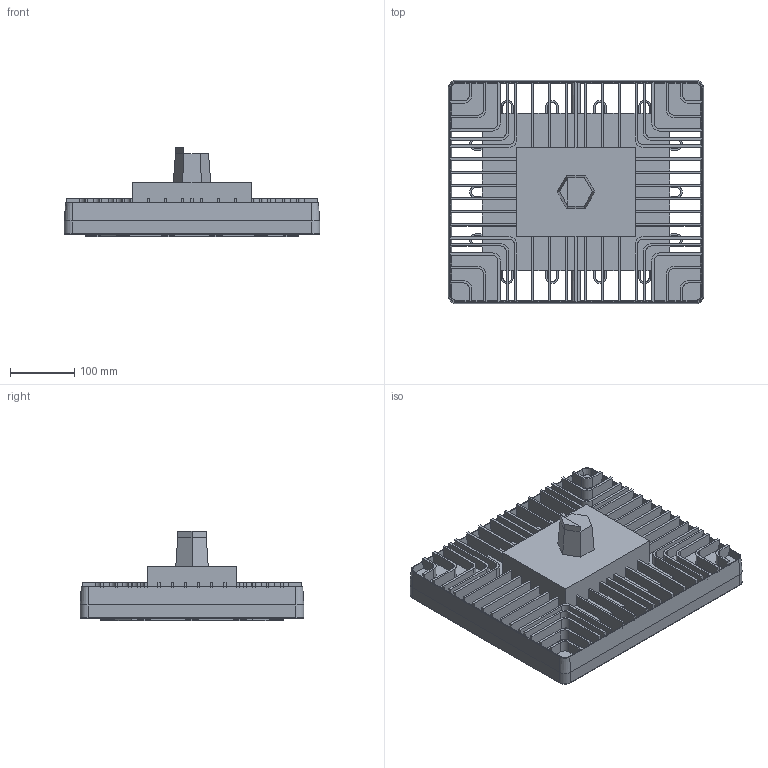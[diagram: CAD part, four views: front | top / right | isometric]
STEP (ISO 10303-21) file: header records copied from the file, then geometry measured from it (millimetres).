
FILE_DESCRIPTION (( 'STEP AP203' ), '1' );
FILE_NAME ('EPL-HB-150LED-RT STEP.STEP', '2013-02-07T22:04:49', ( '' ), ( '' ), 'SwSTEP 2.0', 'SolidWorks 2011', '' );
FILE_SCHEMA (( 'CONFIG_CONTROL_DESIGN' ));
Length unit declared in the file: inch
Products named in the file (1): EPL-HB-150LED-RT STEP
Bounding box: 398.46 x 349.25 x 139.95 mm (x, y, z)
Volume: 4871850.1 mm3; surface area: 794126.4 mm2
Topology: 1 solids, 1 shells, 971 faces, 3066 edges, 1977 vertices
Faces by surface type: plane 722, cylinder 229, torus 12, cone 8
Entity records: 33821 total; most frequent: ORIENTED_EDGE 6132, CARTESIAN_POINT 6039, DIRECTION 5472, EDGE_CURVE 3066, LINE 2588, VECTOR 2588, VERTEX_POINT 1977, AXIS2_PLACEMENT_3D 1442
